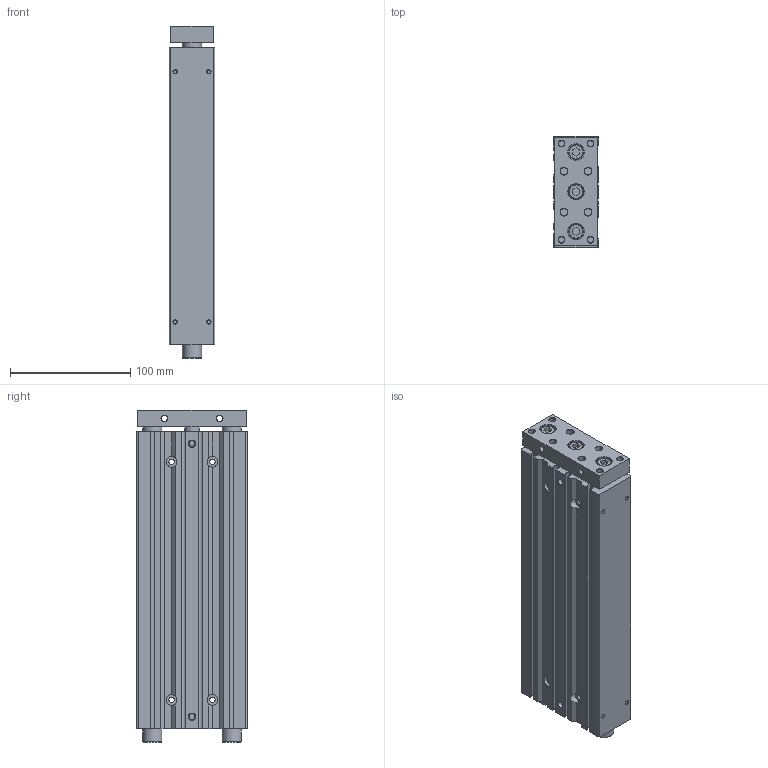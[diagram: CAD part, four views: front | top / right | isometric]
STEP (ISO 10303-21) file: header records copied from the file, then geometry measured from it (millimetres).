
FILE_DESCRIPTION((''),'2;1');
FILE_NAME('I:\3D電子目錄\氣缸\TB(U)\TB(U)25\TB(U)25\TB(U)25x200.stp','2007-08-06T08:24:30',('Administrator'),(''),'Autodesk Inventor 2008','Autodesk Inventor 2008','');
FILE_SCHEMA(('AUTOMOTIVE_DESIGN { 1 0 10303 214 1 1 1 1 }'));
Length unit declared in the file: millimetre
Products named in the file (1): TB(U)25X200
Bounding box: 38 x 92 x 276 mm (x, y, z)
Volume: 841955.4 mm3; surface area: 109172.6 mm2
Topology: 1 solids, 1 shells, 214 faces, 500 edges, 318 vertices
Faces by surface type: plane 104, cylinder 48, cone 39, bspline 20, torus 3
Full cylindrical faces by diameter (mm): 3 x4, 4.4 x4, 5 x6, 6 x8, 9 x4, 12 x4, 13 x3, 16 x4, 21 x2, 28 x1
Entity records: 5814 total; most frequent: CARTESIAN_POINT 1133, DIRECTION 968, ORIENTED_EDGE 808, EDGE_CURVE 404, AXIS2_PLACEMENT_3D 369, EDGE_LOOP 368, VERTEX_POINT 314, VECTOR 230
